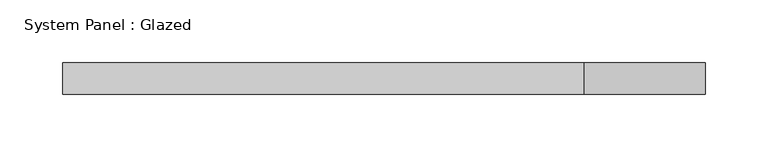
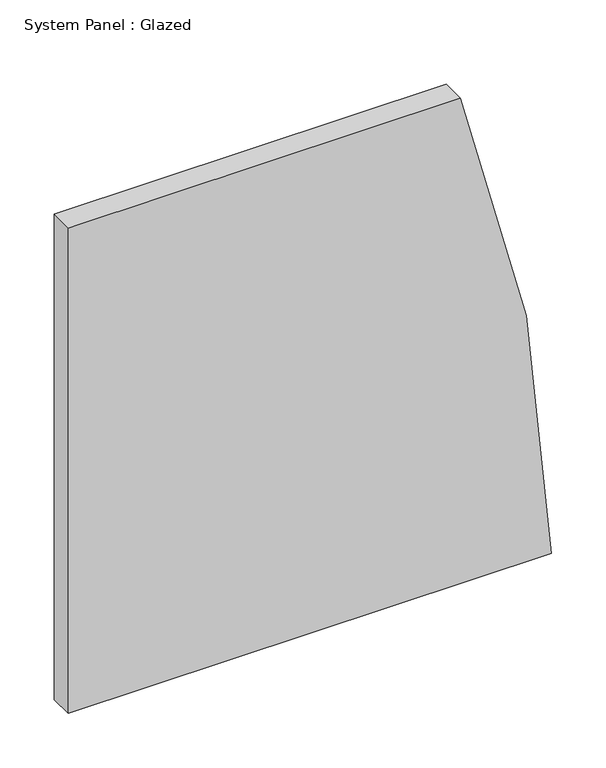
"""IFC4 building model written with IfcOpenShell, lengths in millimetres: plate geometry, System Panel : Glazed."""

from ifc_helpers import new_model, si_unit, point, frame, frame_2d, origin, place, context, project, spatial, polyline, circle_curve, trimmed, segment, composite_curve, outline, extrude, source, transform, mapped, element, save


def system_panel_glazed_20f89685(model_context):
    return source(origin(), model_context, "Body", "SweptSolid", [
        extrude(outline(composite_curve([segment(polyline([(0.0, -257.0322277), (0.0, 257.0322277)]), True, "CONTINUOUS"), segment(trimmed(circle_curve(frame_2d((-31.75, -1507.9822277)), 1765.3), [point((0.0, 257.0322277))], [point((546.1, 160.0625761))], False, "CARTESIAN"), True, "CONTINUOUS"), segment(polyline([(546.1, 160.0625761), (546.1, -257.0322277), (0.0, -257.0322277)]), True, "CONTINUOUS")], self_intersect=False)), frame((0.0, -44.45, 0.0), z_axis=(0.0, 1.0, 0.0), x_axis=(0.0, 0.0, 1.0)), (0.0, 0.0, 1.0), 25.4),
    ])


if __name__ == "__main__":
    model = new_model("IFC4")
    model_context = context("Model", 3, world=origin())
    ifc_project = project(units=[si_unit("LENGTHUNIT", "METRE", prefix="MILLI")], contexts=[model_context])
    site = spatial("IfcSite", under=ifc_project)
    building = spatial("IfcBuilding", under=site)
    placement = place(None, origin())
    system_panel_glazed_shape = system_panel_glazed_20f89685(model_context)
    element("IfcPlate", 1, ObjectType="System Panel : Glazed", at=placement, inside=building, context=model_context, shape_type="MappedRepresentation", body=[
        mapped(system_panel_glazed_shape, transform((0.0, 0.0, 0.0), x_axis=(1.0, 0.0, 0.0), y_axis=(0.0, 1.0, 0.0), z_axis=(0.0, 0.0, 1.0))),
    ])
    save(model, "model.ifc")
